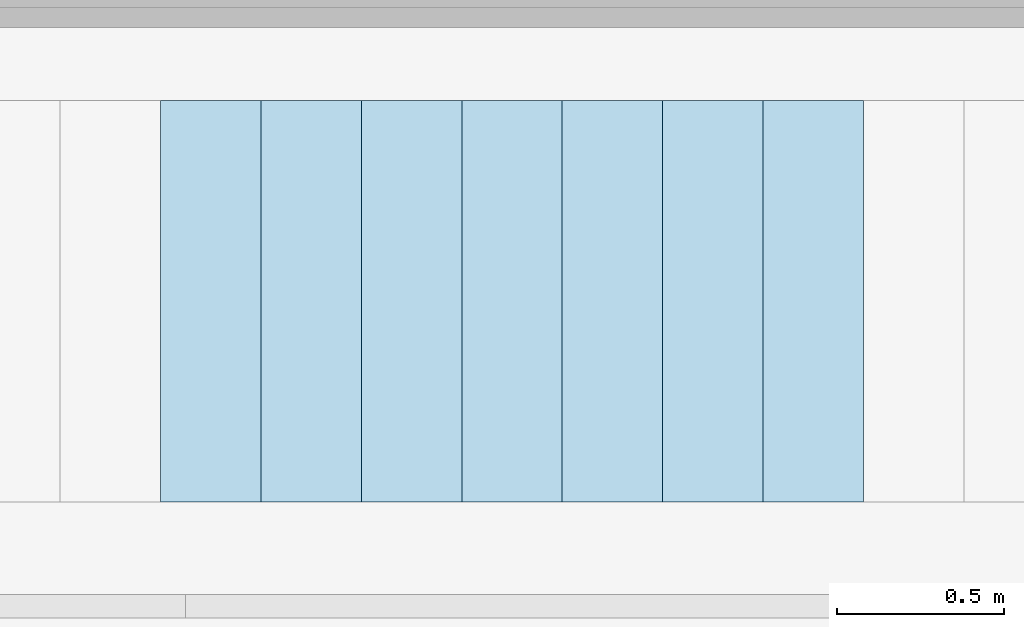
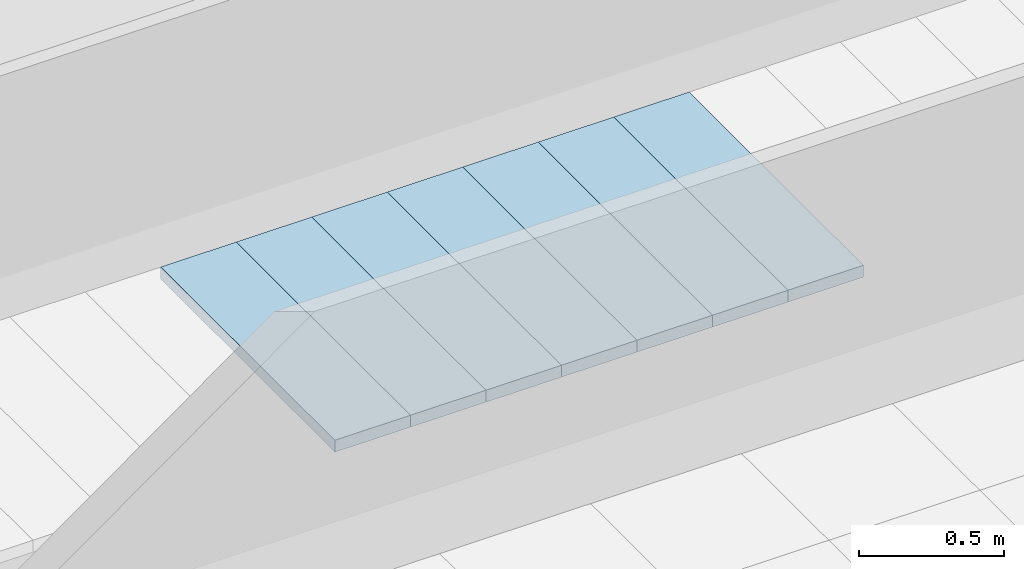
# One storey, part 8 of 60: 7 slabs.
"""IFC2X3 building model written with IfcOpenShell, lengths in millimetres."""

from ifc_helpers import new_model, entity, si_unit, converted_unit, derived_unit, money_unit, direction, frame, origin_with_axes, place, context, subcontext, project, spatial, polyline, outline, extrude, material, layer, layer_set, layer_usage, type_object, element, save


model = new_model("IFC2X3")

# Units and contexts
model_context = context("Model", 3, precision=0.01, world=origin_with_axes(), true_north=direction((0.0, 1.0)))
body_context = subcontext(model_context, "Body", "Model", "MODEL_VIEW")
ifc_project = project(units=[si_unit("LENGTHUNIT", "METRE", prefix="MILLI"), si_unit("AREAUNIT", "SQUARE_METRE"), si_unit("VOLUMEUNIT", "CUBIC_METRE"), converted_unit("PLANEANGLEUNIT", "DEGREE", entity("IfcPlaneAngleMeasure", 0.0174532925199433), si_unit("PLANEANGLEUNIT", "RADIAN"), dimensions=[0, 0, 0, 0, 0, 0, 0]), money_unit("USD"), converted_unit("TIMEUNIT", "Year", entity("IfcTimeMeasure", 31557600.0), si_unit("TIMEUNIT", "SECOND"), dimensions=[0, 0, 1, 0, 0, 0, 0]), si_unit("MASSUNIT", "GRAM", prefix="KILO"), si_unit("THERMODYNAMICTEMPERATUREUNIT", "DEGREE_CELSIUS"), si_unit("LUMINOUSINTENSITYUNIT", "LUMEN"), si_unit("ENERGYUNIT", "JOULE", prefix="MEGA"), derived_unit("THERMALCONDUCTANCEUNIT", [(si_unit("POWERUNIT", "WATT"), 1), (si_unit("LENGTHUNIT", "METRE"), -1), (si_unit("THERMODYNAMICTEMPERATUREUNIT", "KELVIN"), -1)]), derived_unit("SPECIFICHEATCAPACITYUNIT", [(si_unit("ENERGYUNIT", "JOULE"), 1), (si_unit("MASSUNIT", "GRAM", prefix="KILO"), -1), (si_unit("THERMODYNAMICTEMPERATUREUNIT", "KELVIN"), -1)]), derived_unit("MASSDENSITYUNIT", [(si_unit("MASSUNIT", "GRAM", prefix="KILO"), 1), (si_unit("VOLUMEUNIT", "CUBIC_METRE"), -1)])], contexts=[model_context])

# Site, building, storey
site_placement = place(None, origin_with_axes())
site = spatial("IfcSite", under=ifc_project, at=site_placement, Name="Sitio", CompositionType="ELEMENT")
building_placement = place(site_placement, origin_with_axes())
building = spatial("IfcBuilding", under=site, at=building_placement, Name="Construcción", CompositionType="ELEMENT")
storey_placement = place(building_placement, frame((0.0, 0.0, 3650.0), z_axis=(0.0, 0.0, 1.0), x_axis=(1.0, 0.0, 0.0)))
storey = spatial("IfcBuildingStorey", under=building, at=storey_placement, Name="PLANTA 2ª", CompositionType="ELEMENT", Elevation=3650.0)

# Slabs
ifc_material = material(Name="ARQ_ME126_CelRas_Placa_Metallica")
ifc_layer = layer(ifc_material, 50.0, ventilated="UNKNOWN")
ifc_layer_set = layer_set([ifc_layer], Name="ARQ_ME126_CelRas_Placa_Metallica 50")
ifc_layer_usage_1 = layer_usage(ifc_layer_set, "AXIS3", "NEGATIVE", 50.0)
slab_type = type_object("IfcSlabType", Name="ARQ_ME126_CelRas_Placa_Metallica 50", PredefinedType="NOTDEFINED")
slab_1_placement = place(storey_placement, frame((-16470.23708222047, 3586.50452866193, 2500.0), z_axis=(0.0, 0.0, 1.0), x_axis=(1.0, 0.0, 0.0)))
element("IfcSlab", 1, at=slab_1_placement, inside=storey, type_object=slab_type, material=ifc_layer_usage_1, Name="SLA - 026", PredefinedType="NOTDEFINED", context=body_context, shape_type="SweptSolid", body=[
    extrude(outline(polyline([(0.0, 0.0), (0.0, -1199.999999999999), (300.0000000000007, -1199.999999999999), (300.0000000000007, 0.0), (0.0, 0.0)])), frame((0.0, 0.0, -50.0), z_axis=(0.0, 0.0, 1.0), x_axis=(1.0, 0.0, 0.0)), (0.0, 0.0, 1.0), 50.0),
])
ifc_layer_usage_2 = layer_usage(ifc_layer_set, "AXIS3", "NEGATIVE", 50.0)
slab_2_placement = place(storey_placement, frame((-16170.23708222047, 3586.50452866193, 2500.0), z_axis=(0.0, 0.0, 1.0), x_axis=(1.0, 0.0, 0.0)))
element("IfcSlab", 2, at=slab_2_placement, inside=storey, type_object=slab_type, material=ifc_layer_usage_2, Name="SLA - 026", PredefinedType="NOTDEFINED", context=body_context, shape_type="SweptSolid", body=[
    extrude(outline(polyline([(0.0, 0.0), (0.0, -1199.999999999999), (300.0000000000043, -1199.999999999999), (300.0000000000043, 0.0), (0.0, 0.0)])), frame((0.0, 0.0, -50.0), z_axis=(0.0, 0.0, 1.0), x_axis=(1.0, 0.0, 0.0)), (0.0, 0.0, 1.0), 50.0),
])
ifc_layer_usage_3 = layer_usage(ifc_layer_set, "AXIS3", "NEGATIVE", 50.0)
slab_3_placement = place(storey_placement, frame((-15870.23708222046, 3586.50452866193, 2500.0), z_axis=(0.0, 0.0, 1.0), x_axis=(1.0, 0.0, 0.0)))
element("IfcSlab", 3, at=slab_3_placement, inside=storey, type_object=slab_type, material=ifc_layer_usage_3, Name="SLA - 026", PredefinedType="NOTDEFINED", context=body_context, shape_type="SweptSolid", body=[
    extrude(outline(polyline([(0.0, 0.0), (0.0, -1199.999999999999), (300.0000000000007, -1199.999999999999), (300.0000000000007, 0.0), (0.0, 0.0)])), frame((0.0, 0.0, -50.0), z_axis=(0.0, 0.0, 1.0), x_axis=(1.0, 0.0, 0.0)), (0.0, 0.0, 1.0), 50.0),
])
ifc_layer_usage_4 = layer_usage(ifc_layer_set, "AXIS3", "NEGATIVE", 50.0)
slab_4_placement = place(storey_placement, frame((-15570.23708222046, 3586.50452866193, 2500.0), z_axis=(0.0, 0.0, 1.0), x_axis=(1.0, 0.0, 0.0)))
element("IfcSlab", 4, at=slab_4_placement, inside=storey, type_object=slab_type, material=ifc_layer_usage_4, Name="SLA - 026", PredefinedType="NOTDEFINED", context=body_context, shape_type="SweptSolid", body=[
    extrude(outline(polyline([(0.0, 0.0), (0.0, -1199.999999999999), (300.0000000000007, -1199.999999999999), (300.0000000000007, 0.0), (0.0, 0.0)])), frame((0.0, 0.0, -50.0), z_axis=(0.0, 0.0, 1.0), x_axis=(1.0, 0.0, 0.0)), (0.0, 0.0, 1.0), 50.0),
])
ifc_layer_usage_5 = layer_usage(ifc_layer_set, "AXIS3", "NEGATIVE", 50.0)
slab_5_placement = place(storey_placement, frame((-15270.23708222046, 3586.50452866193, 2500.0), z_axis=(0.0, 0.0, 1.0), x_axis=(1.0, 0.0, 0.0)))
element("IfcSlab", 5, at=slab_5_placement, inside=storey, type_object=slab_type, material=ifc_layer_usage_5, Name="SLA - 026", PredefinedType="NOTDEFINED", context=body_context, shape_type="SweptSolid", body=[
    extrude(outline(polyline([(0.0, 0.0), (0.0, -1199.999999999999), (300.0000000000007, -1199.999999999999), (300.0000000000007, 0.0), (0.0, 0.0)])), frame((0.0, 0.0, -50.0), z_axis=(0.0, 0.0, 1.0), x_axis=(1.0, 0.0, 0.0)), (0.0, 0.0, 1.0), 50.0),
])
ifc_layer_usage_6 = layer_usage(ifc_layer_set, "AXIS3", "NEGATIVE", 50.0)
slab_6_placement = place(storey_placement, frame((-14970.23708222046, 3586.50452866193, 2500.0), z_axis=(0.0, 0.0, 1.0), x_axis=(1.0, 0.0, 0.0)))
element("IfcSlab", 6, at=slab_6_placement, inside=storey, type_object=slab_type, material=ifc_layer_usage_6, Name="SLA - 026", PredefinedType="NOTDEFINED", context=body_context, shape_type="SweptSolid", body=[
    extrude(outline(polyline([(0.0, 0.0), (0.0, -1199.999999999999), (300.0000000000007, -1199.999999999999), (300.0000000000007, 0.0), (0.0, 0.0)])), frame((0.0, 0.0, -50.0), z_axis=(0.0, 0.0, 1.0), x_axis=(1.0, 0.0, 0.0)), (0.0, 0.0, 1.0), 50.0),
])
ifc_layer_usage_7 = layer_usage(ifc_layer_set, "AXIS3", "NEGATIVE", 50.0)
slab_7_placement = place(storey_placement, frame((-14670.23708222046, 3586.50452866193, 2500.0), z_axis=(0.0, 0.0, 1.0), x_axis=(1.0, 0.0, 0.0)))
element("IfcSlab", 7, at=slab_7_placement, inside=storey, type_object=slab_type, material=ifc_layer_usage_7, Name="SLA - 026", PredefinedType="NOTDEFINED", context=body_context, shape_type="SweptSolid", body=[
    extrude(outline(polyline([(0.0, 0.0), (0.0, -1199.999999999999), (300.0000000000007, -1199.999999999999), (300.0000000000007, 0.0), (0.0, 0.0)])), frame((0.0, 0.0, -50.0), z_axis=(0.0, 0.0, 1.0), x_axis=(1.0, 0.0, 0.0)), (0.0, 0.0, 1.0), 50.0),
])

save(model, "model.ifc")
